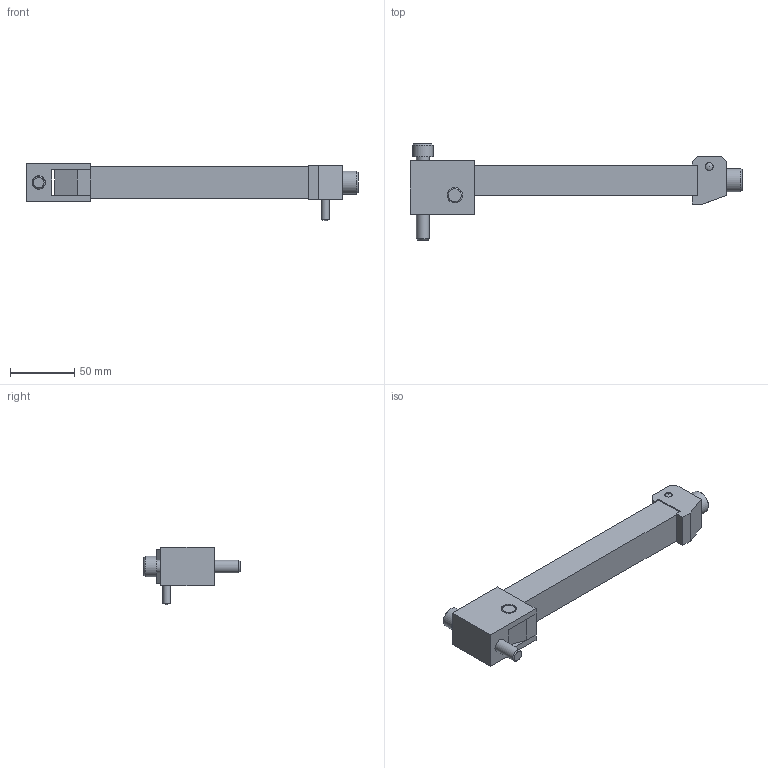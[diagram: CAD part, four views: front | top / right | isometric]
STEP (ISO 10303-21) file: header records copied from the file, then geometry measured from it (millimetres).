
FILE_DESCRIPTION( ( 'STEP AP214' ), '1' );
FILE_NAME( 'p:/temp/worker_2/temp/exporttempdir_3904_9_qXp1L/format_0/ZH902.stp', '2021-02-11T19:23:06', ( 'License CC BY-ND 4.0' ), ( 'CADENAS' ), ' ', 'PARTsolutions', ' ' );
FILE_SCHEMA( ( 'AUTOMOTIVE_DESIGN { 1 0 10303 214 1 1 1 1 }' ) );
Length unit declared in the file: millimetre
Products named in the file (9): ZH902; _ZH90/2_head; _ZH90/2_screw1; _ZH90/2_hand; _ZH90/2_screw2; _ZH90/2_he; _ZH90/2_screw3; _ZH90/2_stift1; _ZH90/2_stift2
Assembly tree (8 placements, depth 2):
  ZH902
    _ZH90/2_head
    _ZH90/2_screw1
    _ZH90/2_hand
    _ZH90/2_screw2
    _ZH90/2_he
    _ZH90/2_screw3
    _ZH90/2_stift1
    _ZH90/2_stift2
Bounding box: 259 x 75 x 44.7 mm (x, y, z)
Volume: 182756.9 mm3; surface area: 51677.6 mm2
Topology: 8 solids, 8 shells, 95 faces, 218 edges, 142 vertices
Faces by surface type: plane 67, cylinder 15, cone 11, sphere 2
Full cylindrical faces by diameter (mm): 4.134 x1, 5 x1, 6 x2, 10 x1, 10.106 x1, 10.5 x1, 12 x5, 13 x1, 16 x1, 18 x1
Entity records: 3438 total; most frequent: CARTESIAN_POINT 474, DIRECTION 428, ORIENTED_EDGE 364, EDGE_CURVE 182, AXIS2_PLACEMENT_3D 143, LINE 142, VECTOR 142, EDGE_LOOP 140
